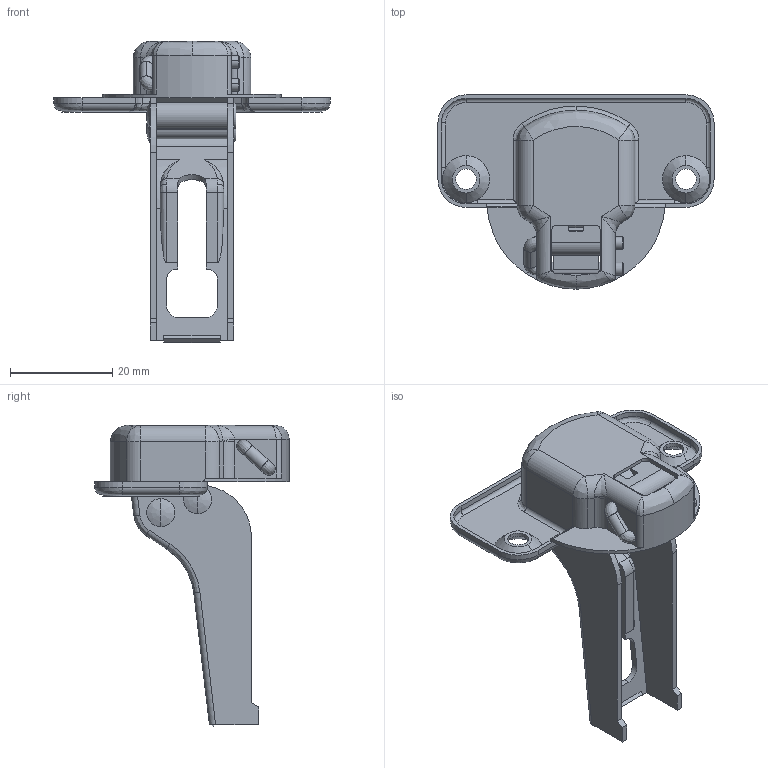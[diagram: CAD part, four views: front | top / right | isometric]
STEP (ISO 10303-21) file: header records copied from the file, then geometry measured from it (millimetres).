
FILE_DESCRIPTION (( 'STEP AP203' ), '1' );
FILE_NAME ('100_46_9_0.STEP', '2013-05-30T05:15:26', ( '' ), ( '' ), 'SwSTEP 2.0', 'SolidWorks 2012', '' );
FILE_SCHEMA (( 'CONFIG_CONTROL_DESIGN' ));
Length unit declared in the file: millimetre
Products named in the file (5): 100_46_9_0; 100SUS_socket; 100SUS_arm_B; 100SUS_arm_A; 100SUS_body_9
Assembly tree (4 placements, depth 2):
  100_46_9_0
    100SUS_body_9
    100SUS_arm_A
    100SUS_arm_B
    100SUS_socket
Bounding box: 54 x 38 x 58.88 mm (x, y, z)
Volume: 6209 mm3; surface area: 12893.1 mm2
Topology: 4 solids, 4 shells, 732 faces, 1927 edges, 1203 vertices
Faces by surface type: plane 316, cylinder 188, bspline 182, cone 34, torus 12
Entity records: 32206 total; most frequent: CARTESIAN_POINT 14854, ORIENTED_EDGE 3810, DIRECTION 3062, EDGE_CURVE 1905, VERTEX_POINT 1203, LINE 1098, VECTOR 1098, AXIS2_PLACEMENT_3D 982
